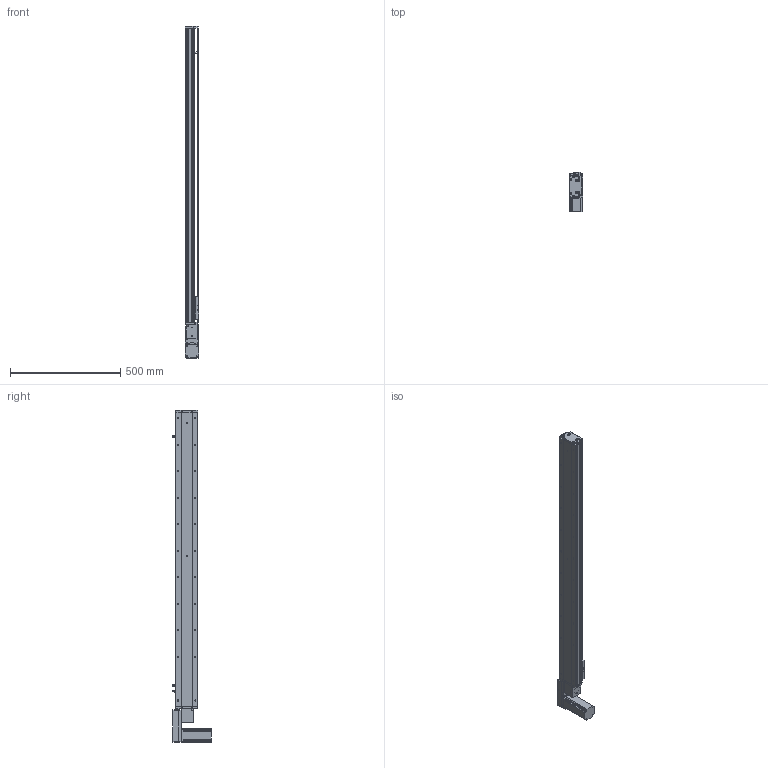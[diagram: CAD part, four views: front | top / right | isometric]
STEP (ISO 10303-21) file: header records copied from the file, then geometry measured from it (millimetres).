
FILE_DESCRIPTION (( 'STEP AP214' ), '1' );
FILE_NAME ('KSD100B-S1150-MLB-CM.STEP', '2019-11-09T03:10:41', ( '微软用户' ), ( '微软中国' ), 'SwSTEP 2.0', 'SolidWorks 2014', '' );
FILE_SCHEMA (( 'AUTOMOTIVE_DESIGN' ));
Length unit declared in the file: millimetre
Products named in the file (12): 悵誘欶奻狟殏; 100宽马达安装板连板上下折丝杆同步带; 台达ECMA－C20604AS伺服电机; U倰嫖萇EEㄜSX672; 覜茼え100遵圉猾敕; 100宽防尘板1150行程-同步带; 100宽马达安装板同步带左; 100宽同步带安装板半封闭; 100宽马达安装板同步带; 100遵傷啣肮祭湍; 100宽底板半封闭同步带1150行程; KSD100B-S1150-MLB-CM
Assembly tree (13 placements, depth 2):
  KSD100B-S1150-MLB-CM
    100宽底板半封闭同步带1150行程
    100遵傷啣肮祭湍
    100宽马达安装板同步带
    100宽同步带安装板半封闭
    100宽马达安装板同步带左
    100宽防尘板1150行程-同步带
    覜茼え100遵圉猾敕
    U倰嫖萇EEㄜSX672  x3
    台达ECMA－C20604AS伺服电机
    100宽马达安装板连板上下折丝杆同步带
    悵誘欶奻狟殏
Bounding box: 61 x 174.7 x 1503 mm (x, y, z)
Volume: 3145173 mm3; surface area: 1052389.2 mm2
Topology: 14 solids, 14 shells, 1503 faces, 4234 edges, 2687 vertices
Faces by surface type: cylinder 761, plane 595, cone 147
Entity records: 53727 total; most frequent: CARTESIAN_POINT 10782, DIRECTION 7354, ORIENTED_EDGE 7080, EDGE_CURVE 3540, AXIS2_PLACEMENT_3D 2693, VERTEX_POINT 2311, VECTOR 1968, LINE 1968
